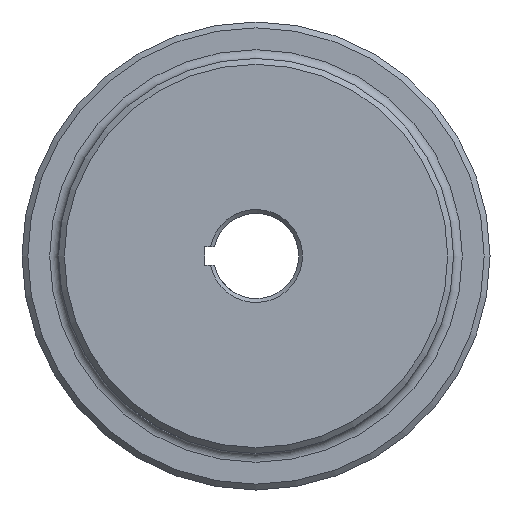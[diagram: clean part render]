
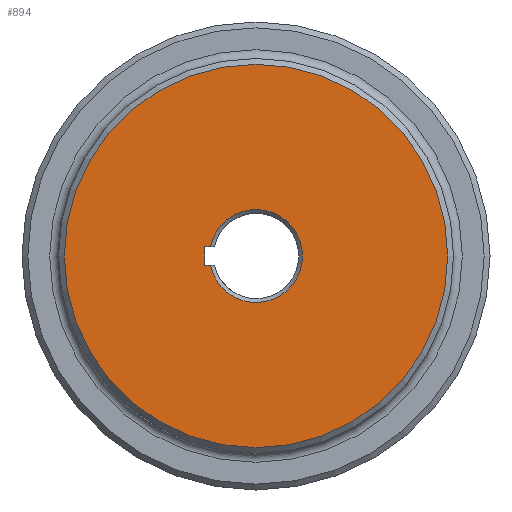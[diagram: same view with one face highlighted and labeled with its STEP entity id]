
A CAD part, left-side view. The second image highlights one B-rep face of the part: STEP entity #894.
In plain terms, the highlighted planar face has unit normal (-1, 0, 0).
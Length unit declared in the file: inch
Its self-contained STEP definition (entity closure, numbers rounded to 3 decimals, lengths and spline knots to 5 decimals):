
#29 = VERTEX_POINT ( 'NONE', #1872 ) ;
#84 = DIRECTION ( 'NONE',  ( 0., 0., -1. ) ) ;
#127 = PLANE ( 'NONE',  #1127 ) ;
#136 = EDGE_CURVE ( 'NONE', #29, #29, #525, .T. ) ;
#236 = DIRECTION ( 'NONE',  ( 0., 0., -1. ) ) ;
#252 = DIRECTION ( 'NONE',  ( 0., -1., 0. ) ) ;
#325 = DIRECTION ( 'NONE',  ( 0., 1., 0. ) ) ;
#351 = AXIS2_PLACEMENT_3D ( 'NONE', #1319, #2652, #84 ) ;
#379 = ORIENTED_EDGE ( 'NONE', *, *, #136, .T. ) ;
#380 = AXIS2_PLACEMENT_3D ( 'NONE', #2379, #1074, #1320 ) ;
#397 = VECTOR ( 'NONE', #252, 39.37008 ) ;
#462 = CARTESIAN_POINT ( 'NONE',  ( 0., 0., 0.0935 ) ) ;
#525 = CIRCLE ( 'NONE', #351, 1.97 ) ;
#602 = ORIENTED_EDGE ( 'NONE', *, *, #1482, .T. ) ;
#707 = EDGE_CURVE ( 'NONE', #1059, #1508, #1574, .T. ) ;
#727 = ORIENTED_EDGE ( 'NONE', *, *, #707, .F. ) ;
#834 = CARTESIAN_POINT ( 'NONE',  ( 0., 0.46841, -0.0935 ) ) ;
#894 = ADVANCED_FACE ( 'NONE', ( #2736, #1930 ), #127, .F. ) ;
#951 = VERTEX_POINT ( 'NONE', #834 ) ;
#977 = CARTESIAN_POINT ( 'NONE',  ( 0., 0.46841, 0.0935 ) ) ;
#981 = EDGE_CURVE ( 'NONE', #2318, #951, #1121, .T. ) ;
#1059 = VERTEX_POINT ( 'NONE', #977 ) ;
#1072 = CARTESIAN_POINT ( 'NONE',  ( 0., 0., 0. ) ) ;
#1074 = DIRECTION ( 'NONE',  ( 1., 0., 0. ) ) ;
#1121 = LINE ( 'NONE', #1510, #397 ) ;
#1127 = AXIS2_PLACEMENT_3D ( 'NONE', #1072, #2513, #2325 ) ;
#1171 = VECTOR ( 'NONE', #236, 39.37008 ) ;
#1319 = CARTESIAN_POINT ( 'NONE',  ( 0., 0., 0. ) ) ;
#1320 = DIRECTION ( 'NONE',  ( 0., 0., -1. ) ) ;
#1381 = EDGE_LOOP ( 'NONE', ( #379 ) ) ;
#1405 = CIRCLE ( 'NONE', #380, 0.47765 ) ;
#1482 = EDGE_CURVE ( 'NONE', #1059, #951, #1405, .T. ) ;
#1508 = VERTEX_POINT ( 'NONE', #1751 ) ;
#1510 = CARTESIAN_POINT ( 'NONE',  ( 0., 0., -0.0935 ) ) ;
#1574 = LINE ( 'NONE', #462, #2306 ) ;
#1751 = CARTESIAN_POINT ( 'NONE',  ( 0., 0.52735, 0.0935 ) ) ;
#1872 = CARTESIAN_POINT ( 'NONE',  ( 0., 0., -1.97 ) ) ;
#1930 = FACE_BOUND ( 'NONE', #2274, .T. ) ;
#2212 = EDGE_CURVE ( 'NONE', #1508, #2318, #2812, .T. ) ;
#2262 = CARTESIAN_POINT ( 'NONE',  ( 0., 0.52735, -0.0935 ) ) ;
#2274 = EDGE_LOOP ( 'NONE', ( #727, #602, #2286, #2511 ) ) ;
#2286 = ORIENTED_EDGE ( 'NONE', *, *, #981, .F. ) ;
#2306 = VECTOR ( 'NONE', #325, 39.37008 ) ;
#2318 = VERTEX_POINT ( 'NONE', #2353 ) ;
#2325 = DIRECTION ( 'NONE',  ( 0., 0., -1. ) ) ;
#2353 = CARTESIAN_POINT ( 'NONE',  ( 0., 0.52735, -0.0935 ) ) ;
#2379 = CARTESIAN_POINT ( 'NONE',  ( 0., 0., 0. ) ) ;
#2511 = ORIENTED_EDGE ( 'NONE', *, *, #2212, .F. ) ;
#2513 = DIRECTION ( 'NONE',  ( 1., 0., 0. ) ) ;
#2652 = DIRECTION ( 'NONE',  ( -1., 0., 0. ) ) ;
#2736 = FACE_OUTER_BOUND ( 'NONE', #1381, .T. ) ;
#2812 = LINE ( 'NONE', #2262, #1171 ) ;
